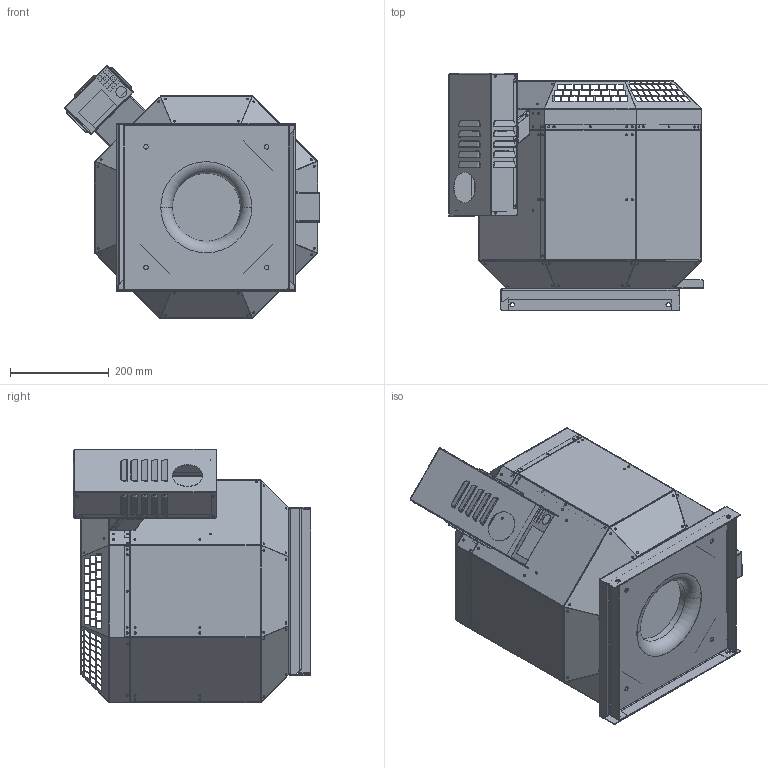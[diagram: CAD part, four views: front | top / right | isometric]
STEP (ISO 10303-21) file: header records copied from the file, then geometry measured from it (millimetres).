
FILE_DESCRIPTION (( 'STEP AP203' ), '1' );
FILE_NAME ('144875-01_DVN225D230_step.step', '2018-07-02T12:46:41', ( '' ), ( '' ), 'SwSTEP 2.0', 'SolidWorks 2017', '' );
FILE_SCHEMA (( 'CONFIG_CONTROL_DESIGN' ));
Products named in the file (1): 144875-01_DVN225D230_step
Bounding box: 517.71 x 482 x 513.88 mm (x, y, z)
Surface area: 2189746.3 mm2 (no closed solid volume)
Topology: 0 solids, 30 shells, 1545 faces, 6725 edges, 4823 vertices
Faces by surface type: plane 1033, cylinder 415, bspline 95, torus 2
Entity records: 86951 total; most frequent: CARTESIAN_POINT 32660, DIRECTION 10378, ORIENTED_EDGE 9914, EDGE_CURVE 6725, VECTOR 4924, LINE 4924, VERTEX_POINT 4823, AXIS2_PLACEMENT_3D 2727
